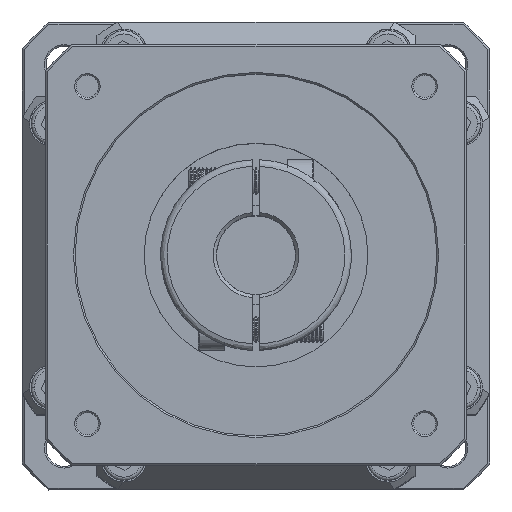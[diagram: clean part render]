
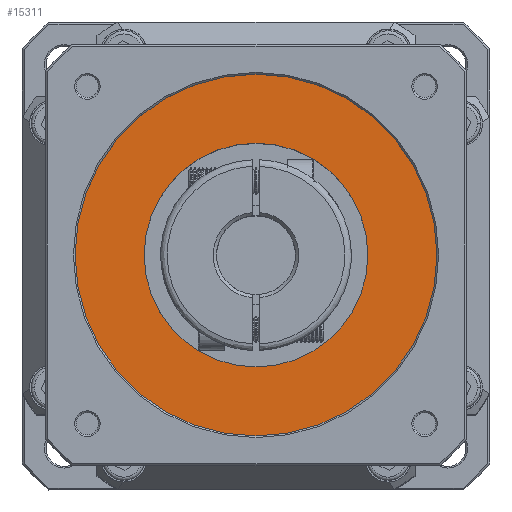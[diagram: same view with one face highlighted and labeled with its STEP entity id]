
A CAD part, top view. The second image highlights one B-rep face of the part: STEP entity #15311.
In plain terms, the highlighted planar face has unit normal (0, 0, -1).
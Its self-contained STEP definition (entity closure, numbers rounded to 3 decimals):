
#1446 = CARTESIAN_POINT ( 'NONE',  ( -34., 0., 239.5 ) ) ;
#1558 = CARTESIAN_POINT ( 'NONE',  ( 0., 0., 239.5 ) ) ;
#3471 = FACE_OUTER_BOUND ( 'NONE', #10884, .T. ) ;
#4966 = DIRECTION ( 'NONE',  ( 1., 0., 0. ) ) ;
#6546 = EDGE_CURVE ( 'NONE', #39565, #30868, #35683, .T. ) ;
#8790 = DIRECTION ( 'NONE',  ( 1., 0., 0. ) ) ;
#10884 = EDGE_LOOP ( 'NONE', ( #67395, #39477 ) ) ;
#11173 = CIRCLE ( 'NONE', #85945, 34. ) ;
#15311 = ADVANCED_FACE ( 'NONE', ( #22634, #3471 ), #89622, .F. ) ;
#17233 = CARTESIAN_POINT ( 'NONE',  ( 55., 0., 239.5 ) ) ;
#17415 = AXIS2_PLACEMENT_3D ( 'NONE', #81889, #38750, #89125 ) ;
#21226 = CIRCLE ( 'NONE', #17415, 34. ) ;
#22634 = FACE_BOUND ( 'NONE', #59902, .T. ) ;
#28941 = EDGE_CURVE ( 'NONE', #84754, #85378, #11173, .T. ) ;
#30601 = AXIS2_PLACEMENT_3D ( 'NONE', #1558, #51921, #8790 ) ;
#30868 = VERTEX_POINT ( 'NONE', #17233 ) ;
#33271 = DIRECTION ( 'NONE',  ( 0., 0., 1. ) ) ;
#35683 = CIRCLE ( 'NONE', #73228, 55. ) ;
#38750 = DIRECTION ( 'NONE',  ( 0., 0., 1. ) ) ;
#39477 = ORIENTED_EDGE ( 'NONE', *, *, #6546, .T. ) ;
#39500 = DIRECTION ( 'NONE',  ( 0., 0., 1. ) ) ;
#39565 = VERTEX_POINT ( 'NONE', #68406 ) ;
#41559 = EDGE_CURVE ( 'NONE', #85378, #84754, #21226, .T. ) ;
#48099 = DIRECTION ( 'NONE',  ( 0., 0., -1. ) ) ;
#50841 = EDGE_CURVE ( 'NONE', #30868, #39565, #77915, .T. ) ;
#51791 = AXIS2_PLACEMENT_3D ( 'NONE', #82689, #39500, #89930 ) ;
#51921 = DIRECTION ( 'NONE',  ( 0., 0., -1. ) ) ;
#59902 = EDGE_LOOP ( 'NONE', ( #88878, #81871 ) ) ;
#67395 = ORIENTED_EDGE ( 'NONE', *, *, #50841, .T. ) ;
#68406 = CARTESIAN_POINT ( 'NONE',  ( -55., 0., 239.5 ) ) ;
#73228 = AXIS2_PLACEMENT_3D ( 'NONE', #91239, #48099, #4966 ) ;
#76387 = CARTESIAN_POINT ( 'NONE',  ( 0., 0., 239.5 ) ) ;
#77915 = CIRCLE ( 'NONE', #30601, 55. ) ;
#81871 = ORIENTED_EDGE ( 'NONE', *, *, #41559, .T. ) ;
#81889 = CARTESIAN_POINT ( 'NONE',  ( 0., 0., 239.5 ) ) ;
#82689 = CARTESIAN_POINT ( 'NONE',  ( -55.66, -55.66, 239.5 ) ) ;
#83627 = DIRECTION ( 'NONE',  ( -1., 0., 0. ) ) ;
#84754 = VERTEX_POINT ( 'NONE', #1446 ) ;
#85378 = VERTEX_POINT ( 'NONE', #91630 ) ;
#85945 = AXIS2_PLACEMENT_3D ( 'NONE', #76387, #33271, #83627 ) ;
#88878 = ORIENTED_EDGE ( 'NONE', *, *, #28941, .T. ) ;
#89125 = DIRECTION ( 'NONE',  ( -1., 0., 0. ) ) ;
#89622 = PLANE ( 'NONE',  #51791 ) ;
#89930 = DIRECTION ( 'NONE',  ( 1., 0., 0. ) ) ;
#91239 = CARTESIAN_POINT ( 'NONE',  ( 0., 0., 239.5 ) ) ;
#91630 = CARTESIAN_POINT ( 'NONE',  ( 34., 0., 239.5 ) ) ;
